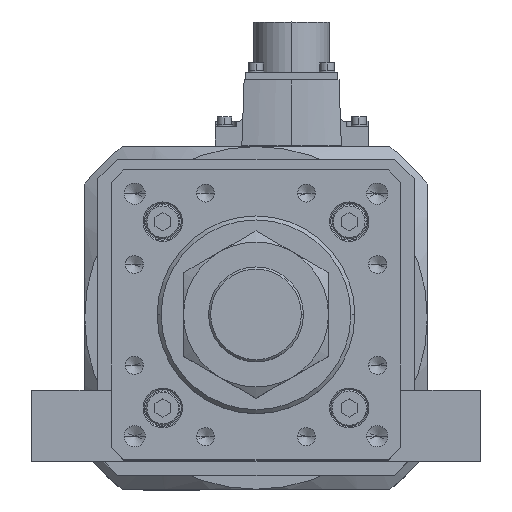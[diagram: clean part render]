
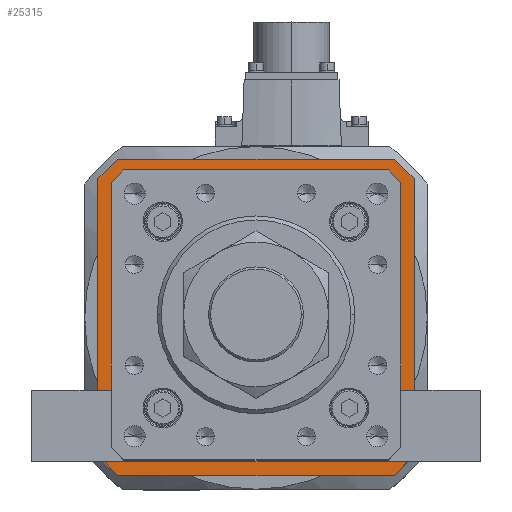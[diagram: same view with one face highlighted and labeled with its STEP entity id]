
A CAD part, top view. The second image highlights one B-rep face of the part: STEP entity #25315.
In plain terms, the highlighted planar face has unit normal (0, 0, 1).
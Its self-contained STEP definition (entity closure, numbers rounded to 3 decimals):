
#66 = VECTOR ( 'NONE', #2140, 1000. ) ;
#184 = EDGE_CURVE ( 'NONE', #5776, #14636, #2121, .T. ) ;
#271 = DIRECTION ( 'NONE',  ( 0.707, 0.707, 0. ) ) ;
#448 = ORIENTED_EDGE ( 'NONE', *, *, #16454, .T. ) ;
#759 = CARTESIAN_POINT ( 'NONE',  ( -49.593, 53.5, -119. ) ) ;
#769 = DIRECTION ( 'NONE',  ( 0., 0., 1. ) ) ;
#1305 = ORIENTED_EDGE ( 'NONE', *, *, #14662, .F. ) ;
#1605 = CARTESIAN_POINT ( 'NONE',  ( -53.5, 49.8, -119. ) ) ;
#1800 = CARTESIAN_POINT ( 'NONE',  ( 53.5, -49.593, -119. ) ) ;
#1938 = EDGE_CURVE ( 'NONE', #29529, #5333, #26965, .T. ) ;
#2053 = ORIENTED_EDGE ( 'NONE', *, *, #10164, .F. ) ;
#2121 = LINE ( 'NONE', #32180, #9036 ) ;
#2140 = DIRECTION ( 'NONE',  ( 0., 1., 0. ) ) ;
#2587 = LINE ( 'NONE', #31863, #11328 ) ;
#3400 = ORIENTED_EDGE ( 'NONE', *, *, #38044, .F. ) ;
#4189 = ORIENTED_EDGE ( 'NONE', *, *, #37465, .T. ) ;
#4401 = DIRECTION ( 'NONE',  ( -1., 0., 0. ) ) ;
#4435 = VECTOR ( 'NONE', #9987, 1000. ) ;
#5128 = CARTESIAN_POINT ( 'NONE',  ( -53.646, -49.446, -119. ) ) ;
#5333 = VERTEX_POINT ( 'NONE', #34827 ) ;
#5776 = VERTEX_POINT ( 'NONE', #33640 ) ;
#6459 = ORIENTED_EDGE ( 'NONE', *, *, #36441, .T. ) ;
#6822 = DIRECTION ( 'NONE',  ( 1., 0., 0. ) ) ;
#6853 = CARTESIAN_POINT ( 'NONE',  ( -52.5, 60., -119. ) ) ;
#7014 = CARTESIAN_POINT ( 'NONE',  ( 60., 52.5, -119. ) ) ;
#8034 = CARTESIAN_POINT ( 'NONE',  ( -60., 52.5, -119. ) ) ;
#8145 = VECTOR ( 'NONE', #33762, 1000. ) ;
#8217 = VERTEX_POINT ( 'NONE', #6853 ) ;
#8417 = CARTESIAN_POINT ( 'NONE',  ( 52.5, 60., -119. ) ) ;
#8543 = VERTEX_POINT ( 'NONE', #32148 ) ;
#9036 = VECTOR ( 'NONE', #31916, 1000. ) ;
#9783 = DIRECTION ( 'NONE',  ( 1., 0., 0. ) ) ;
#9957 = LINE ( 'NONE', #7014, #4435 ) ;
#9987 = DIRECTION ( 'NONE',  ( 0.707, -0.707, 0. ) ) ;
#10164 = EDGE_CURVE ( 'NONE', #22736, #22294, #31213, .T. ) ;
#10281 = EDGE_CURVE ( 'NONE', #5333, #12450, #2587, .T. ) ;
#10642 = FACE_BOUND ( 'NONE', #18494, .T. ) ;
#10976 = VERTEX_POINT ( 'NONE', #8417 ) ;
#11328 = VECTOR ( 'NONE', #14173, 1000. ) ;
#11888 = CARTESIAN_POINT ( 'NONE',  ( -52.5, 60., -119. ) ) ;
#12053 = EDGE_CURVE ( 'NONE', #14636, #22736, #28741, .T. ) ;
#12231 = LINE ( 'NONE', #35206, #32094 ) ;
#12450 = VERTEX_POINT ( 'NONE', #1800 ) ;
#12953 = CARTESIAN_POINT ( 'NONE',  ( -52.5, -60., -119. ) ) ;
#13144 = CARTESIAN_POINT ( 'NONE',  ( -49.593, -53.5, -119. ) ) ;
#13559 = CARTESIAN_POINT ( 'NONE',  ( 49.593, 53.5, -119. ) ) ;
#13569 = AXIS2_PLACEMENT_3D ( 'NONE', #30350, #769, #6822 ) ;
#13634 = VECTOR ( 'NONE', #35648, 1000. ) ;
#14173 = DIRECTION ( 'NONE',  ( 0., -1., 0. ) ) ;
#14189 = VECTOR ( 'NONE', #16706, 1000. ) ;
#14500 = VECTOR ( 'NONE', #271, 1000. ) ;
#14569 = LINE ( 'NONE', #29467, #13634 ) ;
#14636 = VERTEX_POINT ( 'NONE', #21751 ) ;
#14662 = EDGE_CURVE ( 'NONE', #10976, #5776, #9957, .T. ) ;
#15247 = FACE_OUTER_BOUND ( 'NONE', #30503, .T. ) ;
#15281 = ORIENTED_EDGE ( 'NONE', *, *, #20790, .T. ) ;
#15950 = ORIENTED_EDGE ( 'NONE', *, *, #12053, .F. ) ;
#15978 = CARTESIAN_POINT ( 'NONE',  ( 49.8, 53.5, -119. ) ) ;
#16454 = EDGE_CURVE ( 'NONE', #12450, #31924, #34322, .T. ) ;
#16706 = DIRECTION ( 'NONE',  ( -0.707, 0.707, 0. ) ) ;
#17898 = LINE ( 'NONE', #5128, #14189 ) ;
#18097 = VECTOR ( 'NONE', #37201, 1000. ) ;
#18242 = VECTOR ( 'NONE', #22784, 1000. ) ;
#18494 = EDGE_LOOP ( 'NONE', ( #36515, #20851, #36206, #448, #4189, #22225, #15281, #6459 ) ) ;
#18589 = VECTOR ( 'NONE', #24788, 1000. ) ;
#18614 = EDGE_CURVE ( 'NONE', #21639, #29529, #28633, .T. ) ;
#19202 = CARTESIAN_POINT ( 'NONE',  ( 52.5, -60., -119. ) ) ;
#19215 = LINE ( 'NONE', #12953, #21085 ) ;
#19358 = CARTESIAN_POINT ( 'NONE',  ( 49.446, -53.646, -119. ) ) ;
#20010 = CARTESIAN_POINT ( 'NONE',  ( 60., -52.5, -119. ) ) ;
#20077 = CARTESIAN_POINT ( 'NONE',  ( -49.8, -53.5, -119. ) ) ;
#20129 = VERTEX_POINT ( 'NONE', #13144 ) ;
#20622 = CARTESIAN_POINT ( 'NONE',  ( -53.5, 49.593, -119. ) ) ;
#20746 = ORIENTED_EDGE ( 'NONE', *, *, #35605, .F. ) ;
#20790 = EDGE_CURVE ( 'NONE', #37854, #28574, #38239, .T. ) ;
#20851 = ORIENTED_EDGE ( 'NONE', *, *, #1938, .T. ) ;
#21085 = VECTOR ( 'NONE', #25066, 1000. ) ;
#21276 = CARTESIAN_POINT ( 'NONE',  ( -60., -52.5, -119. ) ) ;
#21423 = LINE ( 'NONE', #11888, #14500 ) ;
#21639 = VERTEX_POINT ( 'NONE', #759 ) ;
#21751 = CARTESIAN_POINT ( 'NONE',  ( 60., -52.5, -119. ) ) ;
#22064 = CARTESIAN_POINT ( 'NONE',  ( 52.5, -60., -119. ) ) ;
#22225 = ORIENTED_EDGE ( 'NONE', *, *, #35323, .T. ) ;
#22294 = VERTEX_POINT ( 'NONE', #30157 ) ;
#22736 = VERTEX_POINT ( 'NONE', #22064 ) ;
#22784 = DIRECTION ( 'NONE',  ( -1., 0., 0. ) ) ;
#23497 = VECTOR ( 'NONE', #9783, 1000. ) ;
#24646 = PLANE ( 'NONE',  #13569 ) ;
#24707 = LINE ( 'NONE', #20077, #18242 ) ;
#24788 = DIRECTION ( 'NONE',  ( -0.707, -0.707, 0. ) ) ;
#25066 = DIRECTION ( 'NONE',  ( -0.707, 0.707, 0. ) ) ;
#25315 = ADVANCED_FACE ( 'NONE', ( #10642, #15247 ), #24646, .T. ) ;
#25604 = CARTESIAN_POINT ( 'NONE',  ( -53.5, -49.593, -119. ) ) ;
#25941 = CARTESIAN_POINT ( 'NONE',  ( 53.646, 49.446, -119. ) ) ;
#26965 = LINE ( 'NONE', #25941, #32002 ) ;
#27513 = ORIENTED_EDGE ( 'NONE', *, *, #37514, .F. ) ;
#28574 = VERTEX_POINT ( 'NONE', #20622 ) ;
#28633 = LINE ( 'NONE', #15978, #23497 ) ;
#28741 = LINE ( 'NONE', #20010, #18097 ) ;
#29262 = DIRECTION ( 'NONE',  ( 1., 0., 0. ) ) ;
#29467 = CARTESIAN_POINT ( 'NONE',  ( -49.446, 53.646, -119. ) ) ;
#29529 = VERTEX_POINT ( 'NONE', #13559 ) ;
#30157 = CARTESIAN_POINT ( 'NONE',  ( -52.5, -60., -119. ) ) ;
#30350 = CARTESIAN_POINT ( 'NONE',  ( 0., 0., -119. ) ) ;
#30503 = EDGE_LOOP ( 'NONE', ( #27513, #3400, #32505, #20746, #2053, #15950, #31873, #1305 ) ) ;
#31063 = EDGE_CURVE ( 'NONE', #34618, #8543, #32421, .T. ) ;
#31213 = LINE ( 'NONE', #19202, #34936 ) ;
#31863 = CARTESIAN_POINT ( 'NONE',  ( 53.5, -49.8, -119. ) ) ;
#31873 = ORIENTED_EDGE ( 'NONE', *, *, #184, .F. ) ;
#31916 = DIRECTION ( 'NONE',  ( 0., -1., 0. ) ) ;
#31924 = VERTEX_POINT ( 'NONE', #33830 ) ;
#32002 = VECTOR ( 'NONE', #35129, 1000. ) ;
#32094 = VECTOR ( 'NONE', #29262, 1000. ) ;
#32148 = CARTESIAN_POINT ( 'NONE',  ( -60., 52.5, -119. ) ) ;
#32180 = CARTESIAN_POINT ( 'NONE',  ( 60., 52.5, -119. ) ) ;
#32421 = LINE ( 'NONE', #8034, #66 ) ;
#32505 = ORIENTED_EDGE ( 'NONE', *, *, #31063, .F. ) ;
#33640 = CARTESIAN_POINT ( 'NONE',  ( 60., 52.5, -119. ) ) ;
#33762 = DIRECTION ( 'NONE',  ( 0., 1., 0. ) ) ;
#33830 = CARTESIAN_POINT ( 'NONE',  ( 49.593, -53.5, -119. ) ) ;
#34322 = LINE ( 'NONE', #19358, #18589 ) ;
#34618 = VERTEX_POINT ( 'NONE', #21276 ) ;
#34827 = CARTESIAN_POINT ( 'NONE',  ( 53.5, 49.593, -119. ) ) ;
#34936 = VECTOR ( 'NONE', #4401, 1000. ) ;
#35129 = DIRECTION ( 'NONE',  ( 0.707, -0.707, 0. ) ) ;
#35206 = CARTESIAN_POINT ( 'NONE',  ( 52.5, 60., -119. ) ) ;
#35323 = EDGE_CURVE ( 'NONE', #20129, #37854, #17898, .T. ) ;
#35605 = EDGE_CURVE ( 'NONE', #22294, #34618, #19215, .T. ) ;
#35648 = DIRECTION ( 'NONE',  ( 0.707, 0.707, 0. ) ) ;
#36206 = ORIENTED_EDGE ( 'NONE', *, *, #10281, .T. ) ;
#36441 = EDGE_CURVE ( 'NONE', #28574, #21639, #14569, .T. ) ;
#36515 = ORIENTED_EDGE ( 'NONE', *, *, #18614, .T. ) ;
#37201 = DIRECTION ( 'NONE',  ( -0.707, -0.707, 0. ) ) ;
#37465 = EDGE_CURVE ( 'NONE', #31924, #20129, #24707, .T. ) ;
#37514 = EDGE_CURVE ( 'NONE', #8217, #10976, #12231, .T. ) ;
#37854 = VERTEX_POINT ( 'NONE', #25604 ) ;
#38044 = EDGE_CURVE ( 'NONE', #8543, #8217, #21423, .T. ) ;
#38239 = LINE ( 'NONE', #1605, #8145 ) ;
